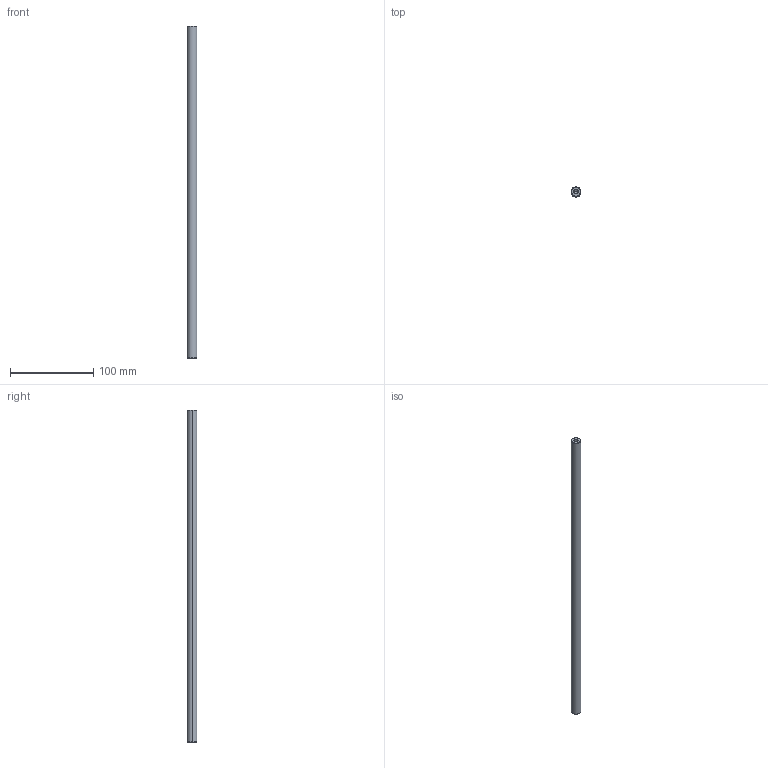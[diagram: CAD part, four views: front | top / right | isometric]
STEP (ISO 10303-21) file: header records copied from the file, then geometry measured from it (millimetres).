
FILE_DESCRIPTION((''),'2;1');
FILE_NAME('15301149_MST 45-40.stp','2014-07-22T11:22:16',(''),(''),'Mechanical Desktop 2009','Mechanical Desktop 2009',', , ');
FILE_SCHEMA(('CONFIG_CONTROL_DESIGN'));
Length unit declared in the file: millimetre
Products named in the file (2): 15301149; TEIL1
Assembly tree (1 placements, depth 2):
  15301149
    TEIL1
Bounding box: 12 x 12 x 400 mm (x, y, z)
Volume: 44801.9 mm3; surface area: 15610.4 mm2
Topology: 1 solids, 1 shells, 12 faces, 24 edges, 13 vertices
Faces by surface type: cone 6, cylinder 4, plane 2
Entity records: 407 total; most frequent: DIRECTION 62, CARTESIAN_POINT 49, ORIENTED_EDGE 44, AXIS2_PLACEMENT_3D 26, EDGE_CURVE 22, VERTEX_POINT 13, EDGE_LOOP 13, CIRCLE 12
